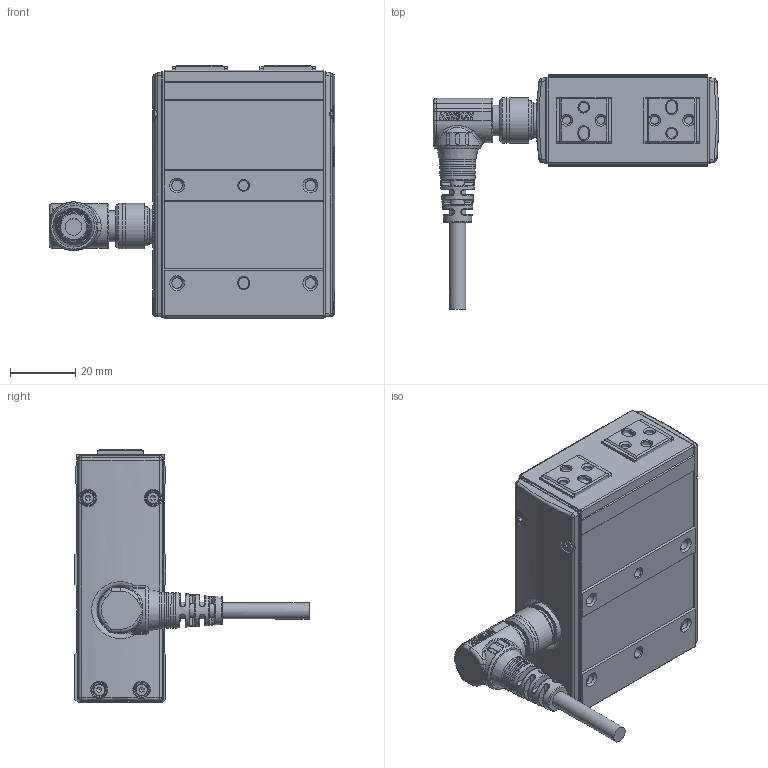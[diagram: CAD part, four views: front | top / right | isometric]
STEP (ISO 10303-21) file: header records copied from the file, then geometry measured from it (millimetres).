
FILE_DESCRIPTION(/* description */ (''),/* implementation_level */ '2;1');
FILE_NAME(/* name */ 'D:\2025.02.25 帶電匯整給泊舟\CHZ2-S10-WL.stp',/* time_stamp */ '2025-02-26T10:14:57+08:00',/* author */ ('T10033'),/* organization */ (''),/* preprocessor_version */ 'ST-DEVELOPER v18.1',/* originating_system */ 'Autodesk Inventor 2020',/* authorisation */ '');
FILE_SCHEMA (('CONFIG_CONTROL_DESIGN'));
Products named in the file (6): CHZ2-S10_已確認; 11003-001130_珠溝研磨(單顆); 12008-000058; 慶陞金屬頭; 7 32T634TSSE3R_Shrinkwrap_1; M12-14PIN 線端90度接頭-05中繼線
Assembly tree (9 placements, depth 2):
  CHZ2-S10_已確認
    11003-001130_珠溝研磨(單顆)  x2
    12008-000058  x4
    慶陞金屬頭
    7 32T634TSSE3R_Shrinkwrap_1
    M12-14PIN 線端90度接頭-05中繼線
Bounding box: 87.8 x 72.01 x 78 mm (x, y, z)
Volume: 118673.5 mm3; surface area: 37638.5 mm2
Topology: 35 solids, 39 shells, 2204 faces, 6015 edges, 3980 vertices
Faces by surface type: plane 1080, cylinder 492, cone 344, bspline 166, torus 102, sphere 20
Full cylindrical faces by diameter (mm): 0.6 x14, 0.65 x14, 1 x18, 1.567 x8, 2 x8, 2.013 x8, 2.459 x6, 3 x7, 3.242 x12, 3.8 x16, 4 x2, 5 x1, 5.5 x4, 6.647 x2, 8 x3, 8.9 x1, 9.5 x2, 9.6 x1, 10.5 x2, 10.9 x1, 11 x2, 11.2 x1, 11.25 x1, 12 x1, 13 x1, 13.8 x1, 14 x2, 14.4 x1
Entity records: 91367 total; most frequent: CARTESIAN_POINT 36014, ORIENTED_EDGE 11264, DIRECTION 11131, EDGE_CURVE 5640, AXIS2_PLACEMENT_3D 4233, VERTEX_POINT 3753, LINE 2665, VECTOR 2665
